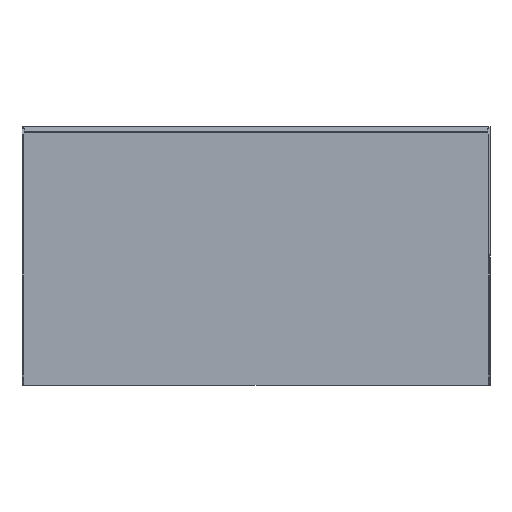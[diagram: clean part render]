
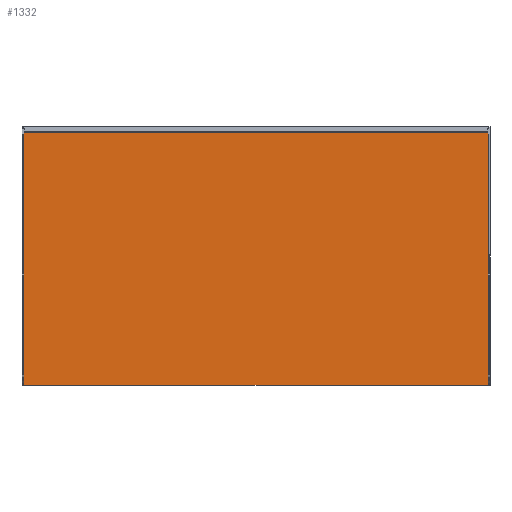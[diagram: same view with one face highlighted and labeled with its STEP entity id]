
A CAD part, front view. The second image highlights one B-rep face of the part: STEP entity #1332.
In plain terms, the highlighted planar face has unit normal (0, -1, 0).
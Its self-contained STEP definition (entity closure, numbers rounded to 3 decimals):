
#76 = DIRECTION ( 'NONE',  ( -1., 0., 0. ) ) ;
#103 = ORIENTED_EDGE ( 'NONE', *, *, #1281, .F. ) ;
#132 = EDGE_CURVE ( 'NONE', #1313, #1160, #786, .T. ) ;
#136 = VERTEX_POINT ( 'NONE', #911 ) ;
#275 = CARTESIAN_POINT ( 'NONE',  ( -247., 0., 447. ) ) ;
#400 = AXIS2_PLACEMENT_3D ( 'NONE', #909, #912, #635 ) ;
#463 = CARTESIAN_POINT ( 'NONE',  ( -247., 0., -447. ) ) ;
#532 = LINE ( 'NONE', #275, #659 ) ;
#572 = CARTESIAN_POINT ( 'NONE',  ( -247., 0., 447. ) ) ;
#602 = CARTESIAN_POINT ( 'NONE',  ( -247., 0., 447. ) ) ;
#625 = FACE_OUTER_BOUND ( 'NONE', #750, .T. ) ;
#635 = DIRECTION ( 'NONE',  ( 0., 0., -1. ) ) ;
#659 = VECTOR ( 'NONE', #668, 1000. ) ;
#668 = DIRECTION ( 'NONE',  ( 0., 0., 1. ) ) ;
#672 = VERTEX_POINT ( 'NONE', #602 ) ;
#720 = LINE ( 'NONE', #572, #924 ) ;
#750 = EDGE_LOOP ( 'NONE', ( #806, #1082, #103, #1318 ) ) ;
#786 = LINE ( 'NONE', #1311, #1220 ) ;
#806 = ORIENTED_EDGE ( 'NONE', *, *, #132, .F. ) ;
#860 = LINE ( 'NONE', #463, #972 ) ;
#909 = CARTESIAN_POINT ( 'NONE',  ( 0., 0., 0. ) ) ;
#911 = CARTESIAN_POINT ( 'NONE',  ( -247., 0., -447. ) ) ;
#912 = DIRECTION ( 'NONE',  ( 0., -1., 0. ) ) ;
#924 = VECTOR ( 'NONE', #1107, 1000. ) ;
#972 = VECTOR ( 'NONE', #76, 1000. ) ;
#1082 = ORIENTED_EDGE ( 'NONE', *, *, #1449, .F. ) ;
#1107 = DIRECTION ( 'NONE',  ( 1., 0., 0. ) ) ;
#1108 = CARTESIAN_POINT ( 'NONE',  ( 247., 0., -447. ) ) ;
#1160 = VERTEX_POINT ( 'NONE', #1108 ) ;
#1167 = DIRECTION ( 'NONE',  ( 0., 0., -1. ) ) ;
#1197 = CARTESIAN_POINT ( 'NONE',  ( 247., 0., 447. ) ) ;
#1220 = VECTOR ( 'NONE', #1167, 1000. ) ;
#1281 = EDGE_CURVE ( 'NONE', #136, #672, #532, .T. ) ;
#1311 = CARTESIAN_POINT ( 'NONE',  ( 247., 0., 447. ) ) ;
#1313 = VERTEX_POINT ( 'NONE', #1197 ) ;
#1318 = ORIENTED_EDGE ( 'NONE', *, *, #1526, .F. ) ;
#1332 = ADVANCED_FACE ( 'NONE', ( #625 ), #1564, .T. ) ;
#1449 = EDGE_CURVE ( 'NONE', #672, #1313, #720, .T. ) ;
#1526 = EDGE_CURVE ( 'NONE', #1160, #136, #860, .T. ) ;
#1564 = PLANE ( 'NONE',  #400 ) ;
